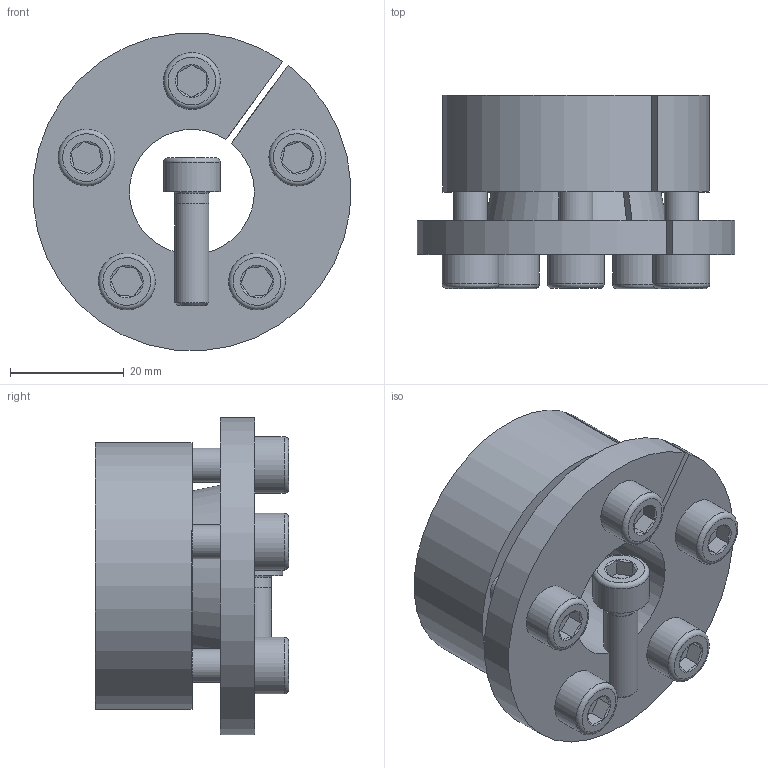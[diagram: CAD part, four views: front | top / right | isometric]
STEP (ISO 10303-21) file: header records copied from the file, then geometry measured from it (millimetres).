
FILE_DESCRIPTION( ( 'Unknown' ), '1' );
FILE_NAME( 'C:/Dokumente und Einstellungen/Sven/Desktop/homepage/cad - homepage/KBS16/KBS 16 - 22 x 47.stp', 'Unknown', ( 'Unknown' ), ( 'Unknown' ), 'XStep 1.0', 'Unknown', ' ' );
FILE_SCHEMA( ( 'automotive_design' ) );
Length unit declared in the file: millimetre
Products named in the file (3): Assem1; KBS 16 - 22 x 47; ISO EN DIN 4762 M6x20
Bounding box: 55.88 x 34 x 55.84 mm (x, y, z)
Volume: 72949.7 mm3; surface area: 33300.1 mm2
Topology: 8 solids, 8 shells, 194 faces, 388 edges, 234 vertices
Faces by surface type: plane 86, cylinder 50, cone 46, torus 12
Full cylindrical faces by diameter (mm): 5 x6, 6 x32, 10 x6
Entity records: 1552 total; most frequent: CARTESIAN_POINT 260, DIRECTION 230, ORIENTED_EDGE 170, AXIS2_PLACEMENT_3D 101, EDGE_LOOP 88, EDGE_CURVE 85, FACE_OUTER_BOUND 63, VERTEX_POINT 63
